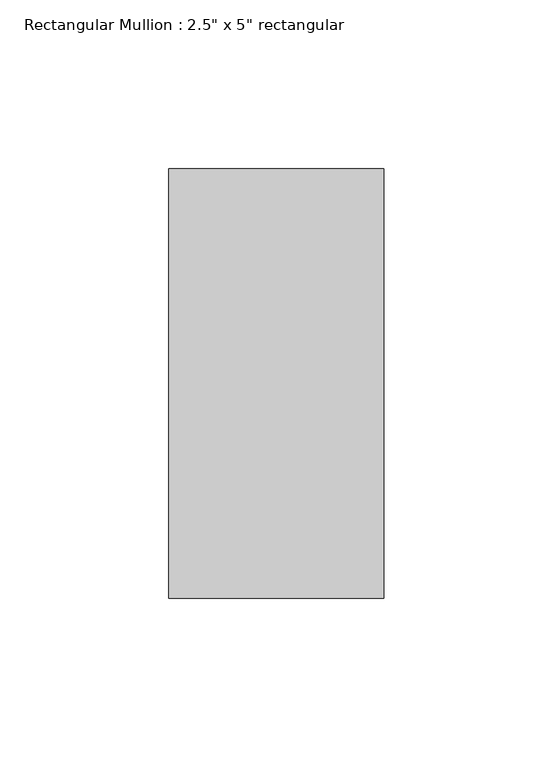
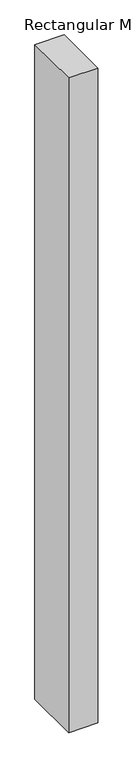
"""IFC4 building model written with IfcOpenShell, lengths in millimetres: member geometry."""

from ifc_helpers import new_model, si_unit, frame, origin, place, context, project, spatial, polyline, outline, extrude, source, transform, mapped, element, save


def member_245f6595(model_context):
    return source(origin(), model_context, "Body", "SweptSolid", [
        extrude(outline(polyline([(31.75, 63.5), (31.75, -63.5), (-31.75, -63.5), (-31.75, 63.5), (31.75, 63.5)])), frame((0.0, 0.0, -1511.3), z_axis=(0.0, 0.0, 1.0), x_axis=(1.0, 0.0, 0.0)), (0.0, 0.0, 1.0), 1511.3),
    ])


if __name__ == "__main__":
    model = new_model("IFC4")
    model_context = context("Model", 3, world=origin())
    ifc_project = project(units=[si_unit("LENGTHUNIT", "METRE", prefix="MILLI")], contexts=[model_context])
    site = spatial("IfcSite", under=ifc_project)
    building = spatial("IfcBuilding", under=site)
    placement = place(None, origin())
    member_shape = member_245f6595(model_context)
    element("IfcMember", 1, ObjectType="Rectangular Mullion : 2.5\" x 5\" rectangular", at=placement, inside=building, context=model_context, shape_type="MappedRepresentation", body=[
        mapped(member_shape, transform((0.0, 0.0, 0.0), x_axis=(1.0, 0.0, 0.0), y_axis=(0.0, 1.0, 0.0), z_axis=(0.0, 0.0, 1.0))),
    ])
    save(model, "model.ifc")
